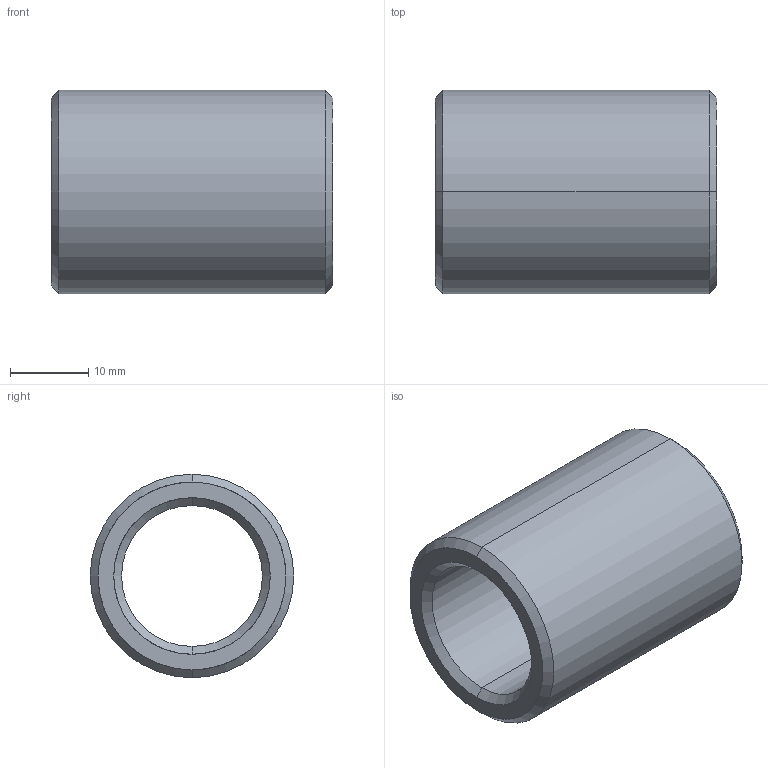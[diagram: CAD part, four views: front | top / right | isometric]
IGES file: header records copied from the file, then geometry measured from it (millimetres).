
Start section: START RECORD GO HERE.
Global section: file name: 352-18X36.igs; native system: DASSAULT SYSTEMES CATIA V5 R20 - www.3ds.com; preprocessor: CATIA Version 5 Release 20 ; author: Utente; organization: NB04-ASUS; date: 20210412.174115; units: millimetre
Bounding box: 36 x 26 x 26 mm (x, y, z)
Surface area: 5375.3 mm2 (no closed solid volume)
Topology: 0 solids, 0 shells, 14 faces, 88 edges, 88 vertices
Faces by surface type: revolution 12, plane 2
